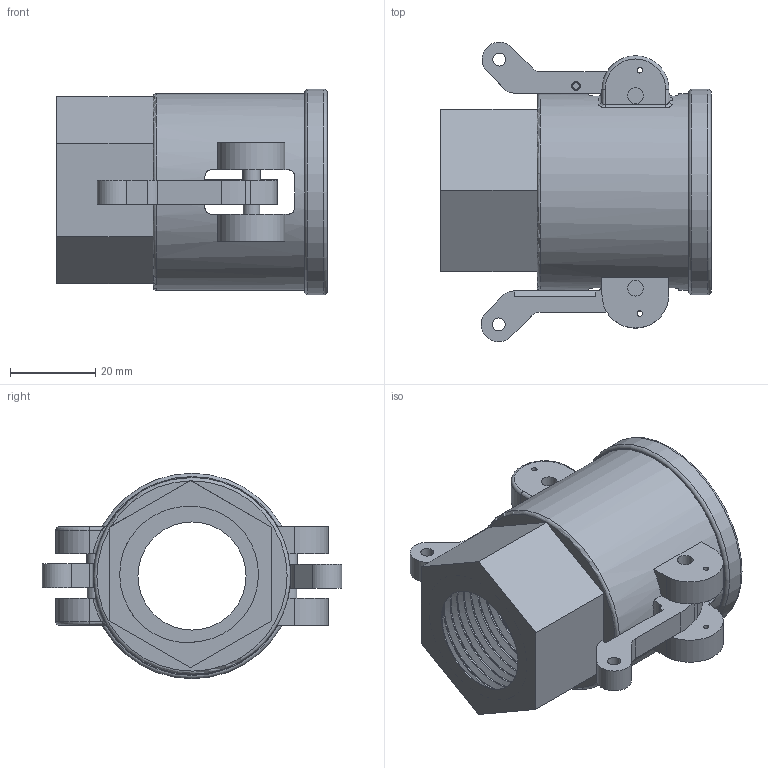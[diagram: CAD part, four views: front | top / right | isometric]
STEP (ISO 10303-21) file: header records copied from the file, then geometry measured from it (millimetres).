
FILE_DESCRIPTION(/* description */ ('Alibre Inc.'),/* implementation_level */ '2;1');
FILE_NAME(/* name */ 'export0',/* time_stamp */ '2015-12-30T14:42:16-05:00',/* author */ (''),/* organization */ (''),/* preprocessor_version */ 'ST-DEVELOPER v14',/* originating_system */ 'Alibre',/* authorisation */ '');
FILE_SCHEMA (('CONFIG_CONTROL_DESIGN'));
Length unit declared in the file: centimetre
Products named in the file (5): ID_1; ID_2; ID_3
Bounding box: 63.5 x 70.35 x 48.26 mm (x, y, z)
Volume: 46565.4 mm3; surface area: 27933.7 mm2
Topology: 6 solids, 6 shells, 173 faces, 436 edges, 284 vertices
Faces by surface type: plane 71, cylinder 52, cone 32, bspline 9, torus 9
Full cylindrical faces by diameter (mm): 1.27 x4, 3.048 x2, 3.712 x4, 3.962 x2, 4.216 x2, 4.242 x2, 25.4 x2, 26.924 x1, 37.338 x1, 39.624 x1, 40.64 x1, 46.228 x1, 48.26 x1
Entity records: 26051 total; most frequent: CARTESIAN_POINT 22339, ORIENTED_EDGE 682, DIRECTION 538, EDGE_CURVE 341, VERTEX_POINT 236, AXIS2_PLACEMENT_3D 231, EDGE_LOOP 205, FACE_BOUND 205
